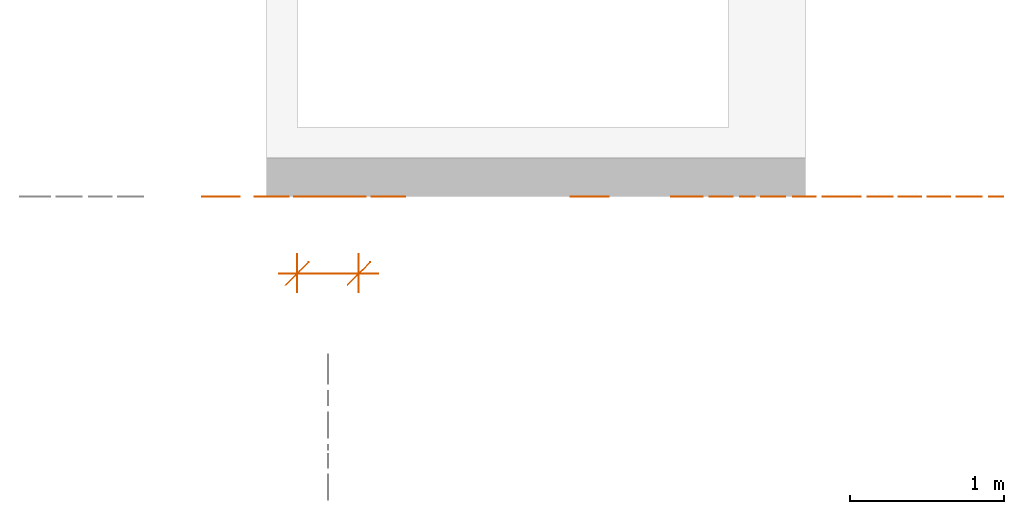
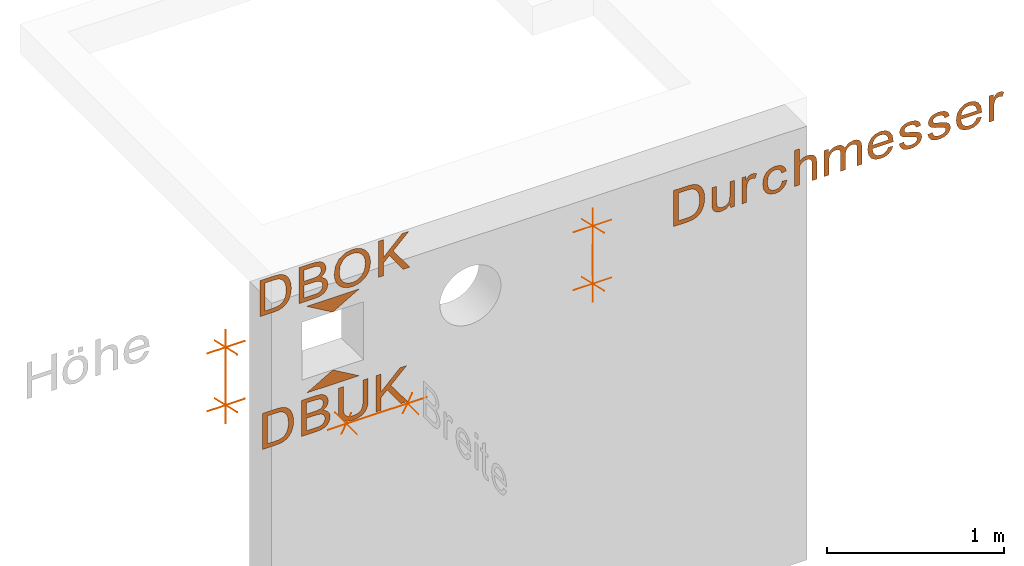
# One storey, part 2 of 3: 6 proxies, 6 elements without a shape of their own.
"""IFC4 building model written with IfcOpenShell, lengths in metres."""

import ifcopenshell
import ifcopenshell.guid

model = None  # the IFC model being written
_history = None  # IfcOwnerHistory: only IFC2X3 demands one
_inside = {}  # id of a spatial element -> (the spatial element, [elements in it])
_under = {}  # id of a project, library or spatial element -> (it, [spatial elements below it])
_declared = {}  # id of a project -> (the project, [libraries it declares])
_typed = {}  # id of a type object -> (the type object, [elements of that type])
_made_of = {}  # id of a material, layer set ... -> (it, [elements and type objects made of it])


def new_model(schema):
    """Start an empty IFC model of exactly this schema.

    Asked for "IFC4X3", IfcOpenShell would pick the latest addendum, in which some entities
    have other attributes; the version numbers below select the first issue.
    IFC2X3 requires an IfcOwnerHistory on every rooted entity: one is made here for all.
    """
    global model, _history
    if schema == "IFC4X3":
        model = ifcopenshell.file(schema_version=(4, 3, 0, 0))
    else:
        model = ifcopenshell.file(schema=schema)
    _inside.clear()
    _under.clear()
    _declared.clear()
    _typed.clear()
    _made_of.clear()
    _history = None
    if model.schema == "IFC2X3":
        org = make("IfcOrganization", Name="unknown")
        user = make(
            "IfcPersonAndOrganization",
            ThePerson=make("IfcPerson", FamilyName="unknown"),
            TheOrganization=org,
        )
        app = make(
            "IfcApplication",
            ApplicationDeveloper=org,
            Version="unknown",
            ApplicationFullName="unknown",
            ApplicationIdentifier="unknown",
        )
        _history = make(
            "IfcOwnerHistory",
            OwningUser=user,
            OwningApplication=app,
            ChangeAction="ADDED",
            CreationDate=0,
        )
    return model


def make(cls, **values):
    """One entity of the class cls with the attributes given. An attribute that is None is left unset."""
    return model.create_entity(
        cls, **{name: value for name, value in values.items() if value is not None}
    )


def entity(cls, *values):
    """Any entity or typed value of the class cls, its attributes in the order of the schema. None: left unset."""
    e = model.create_entity(cls)
    for i, value in enumerate(values):
        if value is not None:
            e[i] = value
    return e


def rooted(cls, **values):
    """An entity with a GlobalId (a new one), such as an element, a storey or a relation."""
    return make(cls, GlobalId=ifcopenshell.guid.new(), OwnerHistory=_history, **values)


def si_unit(unit_type, name, prefix=None):
    """IfcSIUnit, for example si_unit("LENGTHUNIT", "METRE", prefix="MILLI")."""
    return make("IfcSIUnit", UnitType=unit_type, Prefix=prefix, Name=name)


def converted_unit(unit_type, name, factor, base, dimensions=None, offset=None):
    """IfcConversionBasedUnit, such as the inch: factor (a typed value) times the base unit."""
    return make(
        "IfcConversionBasedUnit"
        if offset is None
        else "IfcConversionBasedUnitWithOffset",
        ConversionOffset=offset,
        Dimensions=None
        if dimensions is None
        else entity("IfcDimensionalExponents", *dimensions),
        UnitType=unit_type,
        Name=name,
        ConversionFactor=make(
            "IfcMeasureWithUnit", ValueComponent=factor, UnitComponent=base
        ),
    )


def derived_unit(unit_type, elements):
    """IfcDerivedUnit: a product of units, each with its exponent."""
    return make(
        "IfcDerivedUnit",
        Elements=[
            make("IfcDerivedUnitElement", Unit=unit, Exponent=power)
            for unit, power in elements
        ],
        UnitType=unit_type,
    )


def assignment(units):
    """IfcUnitAssignment: the units of a project."""
    return None if units is None else make("IfcUnitAssignment", Units=units)


def point(xyz):
    """IfcCartesianPoint."""
    return None if xyz is None else make("IfcCartesianPoint", Coordinates=xyz)


def direction(xyz):
    """IfcDirection."""
    return None if xyz is None else make("IfcDirection", DirectionRatios=xyz)


def frame(location, z_axis=None, x_axis=None):
    """IfcAxis2Placement3D, a coordinate frame: its origin and axes. An axis left out is left unset."""
    return make(
        "IfcAxis2Placement3D",
        Location=point(location),
        Axis=direction(z_axis),
        RefDirection=direction(x_axis),
    )


def origin():
    """The frame at (0, 0, 0) with its axes left unset."""
    return frame((0.0, 0.0, 0.0))


def origin_with_axes():
    """The frame at (0, 0, 0) with the z axis (0, 0, 1) and the x axis (1, 0, 0) written out."""
    return frame((0.0, 0.0, 0.0), z_axis=(0.0, 0.0, 1.0), x_axis=(1.0, 0.0, 0.0))


def place(relative_to, where):
    """IfcLocalPlacement: puts the frame where relative to a parent placement (None: the world)."""
    return make(
        "IfcLocalPlacement", PlacementRelTo=relative_to, RelativePlacement=where
    )


def context(
    kind, dimensions, precision=None, world=None, true_north=None, identifier=None
):
    """IfcGeometricRepresentationContext, for example the 3D "Model" context."""
    return make(
        "IfcGeometricRepresentationContext",
        ContextIdentifier=identifier,
        ContextType=kind,
        CoordinateSpaceDimension=dimensions,
        Precision=precision,
        WorldCoordinateSystem=world,
        TrueNorth=true_north,
    )


def subcontext(parent, identifier, kind, view, scale=None):
    """IfcGeometricRepresentationSubContext, for example "Body" below "Model"."""
    return make(
        "IfcGeometricRepresentationSubContext",
        ContextIdentifier=identifier,
        ContextType=kind,
        ParentContext=parent,
        TargetScale=scale,
        TargetView=view,
    )


def project(units=None, contexts=None):
    """IfcProject with its units and contexts."""
    return rooted(
        "IfcProject",
        Name="project",
        RepresentationContexts=contexts,
        UnitsInContext=assignment(units),
    )


def spatial(cls, under=None, at=None, **own):
    """A site, building, storey or space (cls), placed at a placement, below another one or the project."""
    s = rooted(cls, ObjectPlacement=at, **own)
    if under is not None:
        _under.setdefault(under.id(), (under, []))[1].append(s)
    return s


def faces_of(points, faces, orient=None, outer=None):
    """IfcFace entities. A face is a list of loops; a loop is a list of indices into points, from 0.

    orient and outer hold one flag for each loop. By default every Orientation is true, the
    first loop of a face is its IfcFaceOuterBound and the others are IfcFaceBound.
    """
    made = []
    for i, loops in enumerate(faces):
        bounds = []
        for j, loop in enumerate(loops):
            is_outer = j == 0 if outer is None else outer[i][j]
            bounds.append(
                make(
                    "IfcFaceOuterBound" if is_outer else "IfcFaceBound",
                    Bound=make("IfcPolyLoop", Polygon=[points[k] for k in loop]),
                    Orientation=True if orient is None else orient[i][j],
                )
            )
        made.append(make("IfcFace", Bounds=bounds))
    return made


def open_shell(faces, orient=None, outer=None):
    """The faces of one IfcOpenShell. surface_model builds it on its shared points."""
    return ("IfcOpenShell", faces, orient, outer)


def surface_model(cls, points, shells):
    """IfcFaceBasedSurfaceModel or IfcShellBasedSurfaceModel (cls): surfaces that need not close."""
    shared = [point(p) for p in points]
    made = [make(c, CfsFaces=faces_of(shared, fs, o, b)) for c, fs, o, b in shells]
    if cls == "IfcFaceBasedSurfaceModel":
        return make(cls, FbsmFaces=made)
    return make(cls, SbsmBoundary=made)


def shape(context_of_items, identifier, shape_type, items):
    """IfcShapeRepresentation: the items that make up one representation, for example the "Body"."""
    return make(
        "IfcShapeRepresentation",
        ContextOfItems=context_of_items,
        RepresentationIdentifier=identifier,
        RepresentationType=shape_type,
        Items=items,
    )


def source(mapping_origin, context_of_items, identifier, shape_type, items):
    """IfcRepresentationMap: a shape defined once, which mapped items show again and again."""
    return make(
        "IfcRepresentationMap",
        MappingOrigin=mapping_origin,
        MappedRepresentation=shape(context_of_items, identifier, shape_type, items),
    )


def transform(
    local_origin,
    x_axis=None,
    y_axis=None,
    z_axis=None,
    scale=None,
    scale2=None,
    scale3=None,
    uniform=True,
):
    """IfcCartesianTransformationOperator3D, or its non-uniform kind. x_axis, y_axis, z_axis: its Axis1, 2, 3."""
    if uniform:
        return make(
            "IfcCartesianTransformationOperator3D",
            Axis1=direction(x_axis),
            Axis2=direction(y_axis),
            LocalOrigin=point(local_origin),
            Scale=scale,
            Axis3=direction(z_axis),
        )
    return make(
        "IfcCartesianTransformationOperator3DnonUniform",
        Axis1=direction(x_axis),
        Axis2=direction(y_axis),
        LocalOrigin=point(local_origin),
        Scale=scale,
        Axis3=direction(z_axis),
        Scale2=scale2,
        Scale3=scale3,
    )


def mapped(mapping_source, mapping_target):
    """IfcMappedItem: shows the shape of a source again, moved by a transform."""
    return make(
        "IfcMappedItem", MappingSource=mapping_source, MappingTarget=mapping_target
    )


def made_of(thing, what):
    """Note that an element or type object is made of a material, layer set ...; save() writes the relation."""
    if what is not None:
        _made_of.setdefault(what.id(), (what, []))[1].append(thing)
    return thing


def element(
    cls,
    number,
    at=None,
    inside=None,
    cuts=None,
    type_object=None,
    material=None,
    context=None,
    identifier="Body",
    shape_type=None,
    held_by="IfcProductDefinitionShape",
    body=None,
    shapes=None,
    **own,
):
    """One element of the class cls, such as IfcWall. Its Tag is "e" and its number.

    at: its placement. inside: the storey or other place that contains it. cuts: it is an
    opening in that element (IfcRelVoidsElement). A single representation is given by context,
    identifier, shape_type and body (its items); several are given by shapes. held_by: the class
    of the entity that holds the representations. save() writes the other relations.
    """
    e = rooted(cls, Tag="e%d" % number, ObjectPlacement=at, **own)
    if body is not None:
        shapes = [shape(context, identifier, shape_type, body)]
    if shapes is not None:
        e.Representation = make(held_by, Representations=shapes)
    if inside is not None:
        _inside.setdefault(inside.id(), (inside, []))[1].append(e)
    if cuts is not None:
        rooted(
            "IfcRelVoidsElement", RelatingBuildingElement=cuts, RelatedOpeningElement=e
        )
    if type_object is not None:
        _typed.setdefault(type_object.id(), (type_object, []))[1].append(e)
    return made_of(e, material)


def aggregate(whole, parts):
    """IfcRelAggregates: a whole, such as a stair, and the parts it consists of."""
    return rooted("IfcRelAggregates", RelatingObject=whole, RelatedObjects=parts)


def save(model, path):
    """Write the relations noted so far, then the file.

    IfcRelAggregates (storeys below a building ...), IfcRelContainedInSpatialStructure (elements
    in a storey), IfcRelDefinesByType, IfcRelAssociatesMaterial and IfcRelDeclares: one each for
    every whole, place, type object, material and project.
    """
    for whole, parts in _under.values():
        aggregate(whole, parts)
    for where, things in _inside.values():
        rooted(
            "IfcRelContainedInSpatialStructure",
            RelatedElements=things,
            RelatingStructure=where,
        )
    for kind, things in _typed.values():
        rooted("IfcRelDefinesByType", RelatedObjects=things, RelatingType=kind)
    for what, things in _made_of.values():
        rooted("IfcRelAssociatesMaterial", RelatedObjects=things, RelatingMaterial=what)
    for by, libraries in _declared.values():
        rooted("IfcRelDeclares", RelatingContext=by, RelatedDefinitions=libraries)
    model.write(path)


model = new_model("IFC4")

# Units and contexts
model_context = context("Model", 3, precision=1e-05, world=origin())
body_context = subcontext(model_context, "Body", "Model", "MODEL_VIEW")
ifc_project = project(units=[si_unit("LENGTHUNIT", "METRE"), si_unit("AREAUNIT", "SQUARE_METRE"), si_unit("VOLUMEUNIT", "CUBIC_METRE"), si_unit("MASSUNIT", "GRAM", prefix="KILO"), converted_unit("PLANEANGLEUNIT", "DEGREE", entity("IfcPlaneAngleMeasure", 0.0174532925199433), si_unit("PLANEANGLEUNIT", "RADIAN"), dimensions=[0, 0, 0, 0, 0, 0, 0]), derived_unit("THERMALTRANSMITTANCEUNIT", [(si_unit("POWERUNIT", "WATT"), 1), (si_unit("THERMODYNAMICTEMPERATUREUNIT", "KELVIN"), -1), (si_unit("LENGTHUNIT", "METRE"), -2)]), derived_unit("VOLUMETRICFLOWRATEUNIT", [(si_unit("LENGTHUNIT", "METRE"), 3), (converted_unit("TIMEUNIT", "hour", entity("IfcTimeMeasure", 3600.0), si_unit("TIMEUNIT", "SECOND"), dimensions=[0, 0, 1, 0, 0, 0, 0]), -1), (si_unit("LENGTHUNIT", "METRE"), -1)])], contexts=[model_context])

# Site, building, storey
site_placement = place(None, origin())
site = spatial("IfcSite", under=ifc_project, at=site_placement, Name="Liegenschaft", CompositionType="ELEMENT")
building_placement = place(site_placement, origin())
building = spatial("IfcBuilding", under=site, at=building_placement, Name="Gebäude", CompositionType="ELEMENT")
storey_placement = place(building_placement, origin())
storey = spatial("IfcBuildingStorey", under=building, at=storey_placement, Name="Geschoss 01", CompositionType="ELEMENT", Elevation=0.0)

# Assembly, proxy
assembly_1_placement = place(storey_placement, origin())
assembly_1 = element("IfcElementAssembly", 1, at=assembly_1_placement, inside=storey, Name="SpatialDim_Group", PredefinedType="NOTDEFINED")
shared_shape_1 = source(origin_with_axes(), body_context, "Axis", "Curve3D", [
    entity("IfcPolyline", [entity("IfcCartesianPoint", [0.05, 0.05, 0.0]), entity("IfcCartesianPoint", [0.2, 0.2, 0.0])]),
    entity("IfcPolyline", [entity("IfcCartesianPoint", [0.125, 0.0, 0.0]), entity("IfcCartesianPoint", [0.125, 0.25, 0.0])]),
    entity("IfcPolyline", [entity("IfcCartesianPoint", [0.45, 0.05, 0.0]), entity("IfcCartesianPoint", [0.6, 0.2, 0.0])]),
    entity("IfcPolyline", [entity("IfcCartesianPoint", [0.525, 0.0, 0.0]), entity("IfcCartesianPoint", [0.525, 0.25, 0.0])]),
    entity("IfcPolyline", [entity("IfcCartesianPoint", [0.0, 0.125, 0.0]), entity("IfcCartesianPoint", [0.65, 0.125, 0.0])]),
])
proxy_1_placement = place(assembly_1_placement, frame((245.755, 0.0, 2.925), z_axis=(1.22464679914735e-16, -1.0, 1.49975978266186e-32), x_axis=(1.22464679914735e-16, 0.0, -1.0)))
proxy_1 = element("IfcBuildingElementProxy", 2, at=proxy_1_placement, Name="macro", context=body_context, shape_type="MappedRepresentation", body=[
    mapped(shared_shape_1, transform((0.0, 0.0, 0.0), x_axis=(1.0, 0.0, 0.0), y_axis=(0.0, 1.0, 0.0), z_axis=(0.0, 0.0, 1.0), scale=1.0)),
])
aggregate(assembly_1, [proxy_1])

assembly_2_placement = place(storey_placement, origin())
assembly_2 = element("IfcElementAssembly", 3, at=assembly_2_placement, inside=storey, Name="SpatialDim_Group", PredefinedType="NOTDEFINED")
shared_shape_2 = source(origin_with_axes(), body_context, "Axis", "Curve3D", [
    entity("IfcPolyline", [entity("IfcCartesianPoint", [0.05, 0.05, 0.0]), entity("IfcCartesianPoint", [0.2, 0.2, 0.0])]),
    entity("IfcPolyline", [entity("IfcCartesianPoint", [0.125, 0.25, 0.0]), entity("IfcCartesianPoint", [0.125, 0.0, 0.0])]),
    entity("IfcPolyline", [entity("IfcCartesianPoint", [0.45, 0.05, 0.0]), entity("IfcCartesianPoint", [0.6, 0.2, 0.0])]),
    entity("IfcPolyline", [entity("IfcCartesianPoint", [0.525, 0.25, 0.0]), entity("IfcCartesianPoint", [0.525, 0.0, 0.0])]),
    entity("IfcPolyline", [entity("IfcCartesianPoint", [0.0, 0.125, 0.0]), entity("IfcCartesianPoint", [0.65, 0.125, 0.0])]),
])
proxy_2_placement = place(assembly_2_placement, frame((248.155, 0.0, 2.925), z_axis=(1.22464679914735e-16, -1.0, 1.49975978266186e-32), x_axis=(1.22464679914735e-16, 0.0, -1.0)))
proxy_2 = element("IfcBuildingElementProxy", 4, at=proxy_2_placement, Name="macro", context=body_context, shape_type="MappedRepresentation", body=[
    mapped(shared_shape_2, transform((0.0, 0.0, 0.0), x_axis=(1.0, 0.0, 0.0), y_axis=(0.0, 1.0, 0.0), z_axis=(0.0, 0.0, 1.0), scale=1.0)),
])
aggregate(assembly_2, [proxy_2])

assembly_3_placement = place(storey_placement, origin())
assembly_3 = element("IfcElementAssembly", 5, at=assembly_3_placement, inside=storey, Name="SpatialDim_Group", PredefinedType="NOTDEFINED")
shared_shape_3 = source(origin_with_axes(), body_context, "Axis", "Curve3D", [
    entity("IfcPolyline", [entity("IfcCartesianPoint", [0.05, 0.05, 0.0]), entity("IfcCartesianPoint", [0.2, 0.2, 0.0])]),
    entity("IfcPolyline", [entity("IfcCartesianPoint", [0.125, 0.0, 0.0]), entity("IfcCartesianPoint", [0.125, 0.25, 0.0])]),
    entity("IfcPolyline", [entity("IfcCartesianPoint", [0.45, 0.05, 0.0]), entity("IfcCartesianPoint", [0.6, 0.2, 0.0])]),
    entity("IfcPolyline", [entity("IfcCartesianPoint", [0.525, 0.0, 0.0]), entity("IfcCartesianPoint", [0.525, 0.25, 0.0])]),
    entity("IfcPolyline", [entity("IfcCartesianPoint", [0.0, 0.125, 0.0]), entity("IfcCartesianPoint", [0.65, 0.125, 0.0])]),
])
proxy_3_placement = place(assembly_3_placement, frame((246.255, -0.625, 2.4)))
proxy_3 = element("IfcBuildingElementProxy", 6, at=proxy_3_placement, Name="macro", context=body_context, shape_type="MappedRepresentation", body=[
    mapped(shared_shape_3, transform((0.0, 0.0, 0.0), x_axis=(1.0, 0.0, 0.0), y_axis=(0.0, 1.0, 0.0), z_axis=(0.0, 0.0, 1.0), scale=1.0)),
])
aggregate(assembly_3, [proxy_3])

assembly_4_placement = place(storey_placement, origin())
assembly_4 = element("IfcElementAssembly", 7, at=assembly_4_placement, inside=storey, Name="SpatialDim_Group", PredefinedType="NOTDEFINED")
shared_shape_4 = source(origin_with_axes(), body_context, "Body", "SurfaceModel", [
    surface_model("IfcShellBasedSurfaceModel", [(0.00999999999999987, 2.162, 0.0), (0.00999999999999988, 2.073, 0.0), (0.0112499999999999, 2.051125, 0.0), (0.0139999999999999, 2.033, 0.0), (0.0201249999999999, 2.0165, 0.0), (0.0269999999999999, 2.003, 0.0), (0.0368749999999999, 1.99125, 0.0), (0.0489999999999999, 1.981, 0.0), (0.0659999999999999, 1.971, 0.0), (0.0859999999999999, 1.964, 0.0), (0.109875, 1.958625, 0.0), (0.136, 1.957, 0.0), (0.16825, 1.95975, 0.0), (0.196, 1.967, 0.0), (0.220125, 1.978875, 0.0), (0.239, 1.996, 0.0), (0.249375, 2.0125, 0.0), (0.256, 2.032, 0.0), (0.259125, 2.0515, 0.0), (0.26, 2.077, 0.0), (0.26, 2.162, 0.0), (0.0399999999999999, 2.05475, 0.0), (0.0389999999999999, 2.076, 0.0), (0.0389999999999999, 2.129, 0.0), (0.231, 2.129, 0.0), (0.231, 2.077, 0.0), (0.229625, 2.0515, 0.0), (0.226, 2.035, 0.0), (0.214875, 2.017625, 0.0), (0.197, 2.004, 0.0), (0.1715, 1.994125, 0.0), (0.137, 1.991, 0.0), (0.109875, 1.9925, 0.0), (0.0879999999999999, 1.997, 0.0), (0.0698749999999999, 2.005375, 0.0), (0.0569999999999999, 2.016, 0.0), (0.0489999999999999, 2.025875, 0.0), (0.0439999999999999, 2.038, 0.0)], [open_shell([[[0, 1, 2, 3, 4, 5, 6, 7, 8, 9, 10, 11, 12, 13, 14, 15, 16, 17, 18, 19, 20], [21, 22, 23, 24, 25, 26, 27, 28, 29, 30, 31, 32, 33, 34, 35, 36, 37]]], orient=[[False, False]])]),
    surface_model("IfcShellBasedSurfaceModel", [(0.00999999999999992, 1.79, 0.0), (0.00999999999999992, 1.762, 0.0), (0.191, 1.762, 0.0), (0.191, 1.793, 0.0), (0.0939999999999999, 1.793, 0.0), (0.0729999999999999, 1.794375, 0.0), (0.0579999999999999, 1.798, 0.0), (0.0469999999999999, 1.805, 0.0), (0.0389999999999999, 1.815, 0.0), (0.0336249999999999, 1.827625, 0.0), (0.0319999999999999, 1.841, 0.0), (0.0339999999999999, 1.8545, 0.0), (0.0389999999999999, 1.865, 0.0), (0.0473749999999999, 1.8725, 0.0), (0.0579999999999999, 1.877, 0.0), (0.0702499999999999, 1.87875, 0.0), (0.0899999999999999, 1.879, 0.0), (0.191, 1.879, 0.0), (0.191, 1.91, 0.0), (0.0789999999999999, 1.91, 0.0), (0.0614999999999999, 1.909375, 0.0), (0.0499999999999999, 1.908, 0.0), (0.0378749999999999, 1.90425, 0.0), (0.0279999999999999, 1.899, 0.0), (0.0188749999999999, 1.89, 0.0), (0.0119999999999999, 1.878, 0.0), (0.00749999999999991, 1.863, 0.0), (0.00599999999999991, 1.848, 0.0), (0.0134999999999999, 1.814875, 0.0), (0.0359999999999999, 1.79, 0.0)], [open_shell([[[0, 1, 2, 3, 4, 5, 6, 7, 8, 9, 10, 11, 12, 13, 14, 15, 16, 17, 18, 19, 20, 21, 22, 23, 24, 25, 26, 27, 28, 29]]], orient=[[False]])]),
    surface_model("IfcShellBasedSurfaceModel", [(0.00999999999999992, 1.714, 0.0), (0.00999999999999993, 1.683, 0.0), (0.105, 1.683, 0.0), (0.123625, 1.681625, 0.0), (0.14, 1.678, 0.0), (0.15, 1.673625, 0.0), (0.157, 1.667, 0.0), (0.1615, 1.658, 0.0), (0.163, 1.649, 0.0), (0.1615, 1.63775, 0.0), (0.157, 1.628, 0.0), (0.185, 1.617, 0.0), (0.192625, 1.632875, 0.0), (0.195, 1.648, 0.0), (0.1935, 1.65875, 0.0), (0.189, 1.668, 0.0), (0.179375, 1.6775, 0.0), (0.163, 1.687, 0.0), (0.191, 1.687, 0.0), (0.191, 1.714, 0.0)], [open_shell([[[0, 1, 2, 3, 4, 5, 6, 7, 8, 9, 10, 11, 12, 13, 14, 15, 16, 17, 18, 19]]], orient=[[False]])]),
    surface_model("IfcShellBasedSurfaceModel", [(0.0759999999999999, 1.45, 0.0), (0.055625, 1.45575, 0.0), (0.042, 1.466, 0.0), (0.0334999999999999, 1.4795, 0.0), (0.0309999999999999, 1.496, 0.0), (0.0353749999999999, 1.517125, 0.0), (0.0479999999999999, 1.533, 0.0), (0.069625, 1.54375, 0.0), (0.101, 1.547, 0.0), (0.13225, 1.543375, 0.0), (0.153, 1.533, 0.0), (0.166, 1.515875, 0.0), (0.17, 1.495, 0.0), (0.16775, 1.480875, 0.0), (0.161, 1.469, 0.0), (0.148875, 1.45925, 0.0), (0.133, 1.454, 0.0), (0.137, 1.423, 0.0), (0.161875, 1.432, 0.0), (0.18, 1.447, 0.0), (0.19125, 1.46875, 0.0), (0.195, 1.495, 0.0), (0.192125, 1.518125, 0.0), (0.184, 1.539, 0.0), (0.16975, 1.5565, 0.0), (0.151, 1.568, 0.0), (0.127, 1.575625, 0.0), (0.0999999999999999, 1.578, 0.0), (0.0597499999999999, 1.572125, 0.0), (0.0299999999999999, 1.555, 0.0), (0.0119999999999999, 1.528, 0.0), (0.00599999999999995, 1.495, 0.0), (0.0105, 1.467375, 0.0), (0.024, 1.445, 0.0), (0.0449999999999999, 1.427875, 0.0), (0.0719999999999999, 1.419, 0.0)], [open_shell([[[0, 1, 2, 3, 4, 5, 6, 7, 8, 9, 10, 11, 12, 13, 14, 15, 16, 17, 18, 19, 20, 21, 22, 23, 24, 25, 26, 27, 28, 29, 30, 31, 32, 33, 34, 35]]], orient=[[False]])]),
    surface_model("IfcShellBasedSurfaceModel", [(0.00999999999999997, 1.37, 0.0), (0.00999999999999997, 1.339, 0.0), (0.109, 1.339, 0.0), (0.128625, 1.337625, 0.0), (0.143, 1.334, 0.0), (0.154, 1.327, 0.0), (0.162, 1.317, 0.0), (0.167375, 1.304875, 0.0), (0.169, 1.292, 0.0), (0.16625, 1.27625, 0.0), (0.159, 1.265, 0.0), (0.144625, 1.257375, 0.0), (0.125, 1.255, 0.0), (0.00999999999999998, 1.255, 0.0), (0.00999999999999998, 1.224, 0.0), (0.125, 1.224, 0.0), (0.148375, 1.2255, 0.0), (0.165, 1.23, 0.0), (0.177875, 1.239, 0.0), (0.187, 1.251, 0.0), (0.19325, 1.267375, 0.0), (0.195, 1.286, 0.0), (0.189, 1.3155, 0.0), (0.171, 1.339, 0.0), (0.26, 1.339, 0.0), (0.26, 1.37, 0.0)], [open_shell([[[0, 1, 2, 3, 4, 5, 6, 7, 8, 9, 10, 11, 12, 13, 14, 15, 16, 17, 18, 19, 20, 21, 22, 23, 24, 25]]], orient=[[False]])]),
    surface_model("IfcShellBasedSurfaceModel", [(0.00999999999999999, 1.176, 0.0), (0.00999999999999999, 1.145, 0.0), (0.104, 1.145, 0.0), (0.1255, 1.143625, 0.0), (0.141, 1.14, 0.0), (0.152875, 1.133125, 0.0), (0.161, 1.124, 0.0), (0.166375, 1.112, 0.0), (0.168, 1.1, 0.0), (0.16525, 1.085, 0.0), (0.158, 1.076, 0.0), (0.145125, 1.06975, 0.0), (0.127, 1.068, 0.0), (0.01, 1.068, 0.0), (0.01, 1.037, 0.0), (0.115, 1.037, 0.0), (0.139125, 1.0335, 0.0), (0.155, 1.024, 0.0), (0.164875, 1.009875, 0.0), (0.168, 0.992, 0.0), (0.166625, 0.98225, 0.0), (0.163, 0.974, 0.0), (0.156875, 0.967, 0.0), (0.15, 0.963, 0.0), (0.13925, 0.96075, 0.0), (0.124, 0.96, 0.0), (0.01, 0.96, 0.0), (0.01, 0.929, 0.0), (0.134, 0.929, 0.0), (0.161125, 0.93275, 0.0), (0.18, 0.944, 0.0), (0.19125, 0.9615, 0.0), (0.195, 0.985, 0.0), (0.186875, 1.01725, 0.0), (0.163, 1.042, 0.0), (0.1765, 1.0495, 0.0), (0.187, 1.06, 0.0), (0.19325, 1.075, 0.0), (0.195, 1.093, 0.0), (0.192875, 1.110125, 0.0), (0.187, 1.125, 0.0), (0.177125, 1.138, 0.0), (0.165, 1.148, 0.0), (0.191, 1.148, 0.0), (0.191, 1.176, 0.0)], [open_shell([[[0, 1, 2, 3, 4, 5, 6, 7, 8, 9, 10, 11, 12, 13, 14, 15, 16, 17, 18, 19, 20, 21, 22, 23, 24, 25, 26, 27, 28, 29, 30, 31, 32, 33, 34, 35, 36, 37, 38, 39, 40, 41, 42, 43, 44]]], orient=[[False]])]),
    surface_model("IfcShellBasedSurfaceModel", [(0.068, 0.756, 0.0), (0.051375, 0.764875, 0.0), (0.04, 0.776, 0.0), (0.03325, 0.789375, 0.0), (0.031, 0.805, 0.0), (0.03525, 0.82675, 0.0), (0.047, 0.844, 0.0), (0.066625, 0.855875, 0.0), (0.093, 0.861, 0.0), (0.093, 0.724, 0.0), (0.09775, 0.724, 0.0), (0.101, 0.724, 0.0), (0.14075, 0.729875, 0.0), (0.17, 0.747, 0.0), (0.188875, 0.774, 0.0), (0.195, 0.807, 0.0), (0.1885, 0.841625, 0.0), (0.17, 0.868, 0.0), (0.139375, 0.886, 0.0), (0.099, 0.892, 0.0), (0.05925, 0.886125, 0.0), (0.03, 0.869, 0.0), (0.012, 0.84075, 0.0), (0.00600000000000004, 0.805, 0.0), (0.00975000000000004, 0.775625, 0.0), (0.021, 0.753, 0.0), (0.0395, 0.735625, 0.0), (0.064, 0.725, 0.0), (0.137625, 0.75975, 0.0), (0.118, 0.756, 0.0), (0.118, 0.86, 0.0), (0.139625, 0.854625, 0.0), (0.156, 0.844, 0.0), (0.16675, 0.827, 0.0), (0.17, 0.807, 0.0), (0.1655, 0.78525, 0.0), (0.152, 0.768, 0.0)], [open_shell([[[0, 1, 2, 3, 4, 5, 6, 7, 8, 9, 10, 11, 12, 13, 14, 15, 16, 17, 18, 19, 20, 21, 22, 23, 24, 25, 26, 27], [28, 29, 30, 31, 32, 33, 34, 35, 36]]], orient=[[False, False]])]),
    surface_model("IfcShellBasedSurfaceModel", [(0.065, 0.687, 0.0), (0.03925, 0.678, 0.0), (0.021, 0.663, 0.0), (0.00975000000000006, 0.640625, 0.0), (0.00600000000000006, 0.61, 0.0), (0.00800000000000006, 0.589875, 0.0), (0.0130000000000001, 0.572, 0.0), (0.0227500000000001, 0.55675, 0.0), (0.0340000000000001, 0.546, 0.0), (0.0485000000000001, 0.53925, 0.0), (0.0630000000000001, 0.537, 0.0), (0.0778750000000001, 0.539125, 0.0), (0.0890000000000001, 0.545, 0.0), (0.0988750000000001, 0.553875, 0.0), (0.105, 0.565, 0.0), (0.11175, 0.583, 0.0), (0.12, 0.61, 0.0), (0.125125, 0.628, 0.0), (0.128, 0.637, 0.0), (0.131625, 0.644, 0.0), (0.136, 0.648, 0.0), (0.1415, 0.651125, 0.0), (0.147, 0.652, 0.0), (0.15575, 0.64975, 0.0), (0.163, 0.643, 0.0), (0.168375, 0.631125, 0.0), (0.17, 0.614, 0.0), (0.167875, 0.59825, 0.0), (0.162, 0.587, 0.0), (0.152125, 0.57875, 0.0), (0.14, 0.575, 0.0), (0.144, 0.544, 0.0), (0.16025, 0.548375, 0.0), (0.172, 0.555, 0.0), (0.182, 0.564625, 0.0), (0.189, 0.578, 0.0), (0.1935, 0.59625, 0.0), (0.195, 0.616, 0.0), (0.19375, 0.63025, 0.0), (0.191, 0.643, 0.0), (0.18725, 0.654, 0.0), (0.182, 0.662, 0.0), (0.174625, 0.671, 0.0), (0.165, 0.677, 0.0), (0.154375, 0.6815, 0.0), (0.143, 0.683, 0.0), (0.13025, 0.681, 0.0), (0.119, 0.676, 0.0), (0.109, 0.667125, 0.0), (0.102, 0.656, 0.0), (0.0945, 0.637, 0.0), (0.0870000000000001, 0.609, 0.0), (0.0803750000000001, 0.589, 0.0), (0.0760000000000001, 0.578, 0.0), (0.0687500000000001, 0.570375, 0.0), (0.0600000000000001, 0.568, 0.0), (0.0488750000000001, 0.57075, 0.0), (0.0400000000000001, 0.578, 0.0), (0.0332500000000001, 0.590875, 0.0), (0.0310000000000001, 0.609, 0.0), (0.0337500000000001, 0.62775, 0.0), (0.0410000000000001, 0.642, 0.0), (0.0531250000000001, 0.65125, 0.0), (0.069, 0.656, 0.0)], [open_shell([[[0, 1, 2, 3, 4, 5, 6, 7, 8, 9, 10, 11, 12, 13, 14, 15, 16, 17, 18, 19, 20, 21, 22, 23, 24, 25, 26, 27, 28, 29, 30, 31, 32, 33, 34, 35, 36, 37, 38, 39, 40, 41, 42, 43, 44, 45, 46, 47, 48, 49, 50, 51, 52, 53, 54, 55, 56, 57, 58, 59, 60, 61, 62, 63]]], orient=[[False]])]),
    surface_model("IfcShellBasedSurfaceModel", [(0.0650000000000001, 0.5, 0.0), (0.0392500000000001, 0.491, 0.0), (0.0210000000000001, 0.476, 0.0), (0.00975000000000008, 0.453625, 0.0), (0.00600000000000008, 0.423, 0.0), (0.00800000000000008, 0.402875, 0.0), (0.0130000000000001, 0.385, 0.0), (0.0227500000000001, 0.36975, 0.0), (0.0340000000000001, 0.359, 0.0), (0.0485000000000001, 0.35225, 0.0), (0.0630000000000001, 0.35, 0.0), (0.0778750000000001, 0.352125, 0.0), (0.0890000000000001, 0.358, 0.0), (0.0988750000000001, 0.366875, 0.0), (0.105, 0.378, 0.0), (0.11175, 0.396, 0.0), (0.12, 0.423, 0.0), (0.125125, 0.441, 0.0), (0.128, 0.45, 0.0), (0.131625, 0.457, 0.0), (0.136, 0.461, 0.0), (0.1415, 0.464125, 0.0), (0.147, 0.465, 0.0), (0.15575, 0.46275, 0.0), (0.163, 0.456, 0.0), (0.168375, 0.444125, 0.0), (0.17, 0.427, 0.0), (0.167875, 0.41125, 0.0), (0.162, 0.4, 0.0), (0.152125, 0.39175, 0.0), (0.14, 0.388, 0.0), (0.144, 0.357, 0.0), (0.16025, 0.361375, 0.0), (0.172, 0.368, 0.0), (0.182, 0.377625, 0.0), (0.189, 0.391, 0.0), (0.1935, 0.40925, 0.0), (0.195, 0.429, 0.0), (0.19375, 0.44325, 0.0), (0.191, 0.456, 0.0), (0.18725, 0.467, 0.0), (0.182, 0.475, 0.0), (0.174625, 0.484, 0.0), (0.165, 0.49, 0.0), (0.154375, 0.4945, 0.0), (0.143, 0.496, 0.0), (0.13025, 0.494, 0.0), (0.119, 0.489, 0.0), (0.109, 0.480125, 0.0), (0.102, 0.469, 0.0), (0.0945000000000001, 0.45, 0.0), (0.0870000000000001, 0.422, 0.0), (0.0803750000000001, 0.402, 0.0), (0.0760000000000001, 0.391, 0.0), (0.0687500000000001, 0.383375, 0.0), (0.0600000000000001, 0.381, 0.0), (0.0488750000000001, 0.38375, 0.0), (0.0400000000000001, 0.391, 0.0), (0.0332500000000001, 0.403875, 0.0), (0.0310000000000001, 0.422, 0.0), (0.0337500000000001, 0.44075, 0.0), (0.0410000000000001, 0.455, 0.0), (0.0531250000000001, 0.46425, 0.0), (0.0690000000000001, 0.469, 0.0)], [open_shell([[[0, 1, 2, 3, 4, 5, 6, 7, 8, 9, 10, 11, 12, 13, 14, 15, 16, 17, 18, 19, 20, 21, 22, 23, 24, 25, 26, 27, 28, 29, 30, 31, 32, 33, 34, 35, 36, 37, 38, 39, 40, 41, 42, 43, 44, 45, 46, 47, 48, 49, 50, 51, 52, 53, 54, 55, 56, 57, 58, 59, 60, 61, 62, 63]]], orient=[[False]])]),
    surface_model("IfcShellBasedSurfaceModel", [(0.0680000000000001, 0.177, 0.0), (0.0513750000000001, 0.185875, 0.0), (0.0400000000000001, 0.197, 0.0), (0.0332500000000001, 0.210375, 0.0), (0.0310000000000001, 0.226, 0.0), (0.0352500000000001, 0.24775, 0.0), (0.0470000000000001, 0.265, 0.0), (0.0666250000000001, 0.276875, 0.0), (0.0930000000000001, 0.282, 0.0), (0.0930000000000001, 0.145, 0.0), (0.0977500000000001, 0.145, 0.0), (0.101, 0.145, 0.0), (0.14075, 0.150875, 0.0), (0.17, 0.168, 0.0), (0.188875, 0.195, 0.0), (0.195, 0.228, 0.0), (0.1885, 0.262625, 0.0), (0.17, 0.289, 0.0), (0.139375, 0.307, 0.0), (0.0990000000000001, 0.313, 0.0), (0.0592500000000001, 0.307125, 0.0), (0.0300000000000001, 0.29, 0.0), (0.0120000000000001, 0.26175, 0.0), (0.00600000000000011, 0.226, 0.0), (0.00975000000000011, 0.196625, 0.0), (0.0210000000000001, 0.174, 0.0), (0.0395000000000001, 0.156625, 0.0), (0.0640000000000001, 0.146, 0.0), (0.137625, 0.18075, 0.0), (0.118, 0.177, 0.0), (0.118, 0.281, 0.0), (0.139625, 0.275625, 0.0), (0.156, 0.265, 0.0), (0.16675, 0.248, 0.0), (0.17, 0.228, 0.0), (0.1655, 0.20625, 0.0), (0.152, 0.189, 0.0)], [open_shell([[[0, 1, 2, 3, 4, 5, 6, 7, 8, 9, 10, 11, 12, 13, 14, 15, 16, 17, 18, 19, 20, 21, 22, 23, 24, 25, 26, 27], [28, 29, 30, 31, 32, 33, 34, 35, 36]]], orient=[[False, False]])]),
    surface_model("IfcShellBasedSurfaceModel", [(0.0100000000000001, 0.0970000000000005, 0.0), (0.0100000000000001, 0.0660000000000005, 0.0), (0.105, 0.0660000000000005, 0.0), (0.123625, 0.0646250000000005, 0.0), (0.14, 0.0610000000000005, 0.0), (0.15, 0.0566250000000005, 0.0), (0.157, 0.0500000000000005, 0.0), (0.1615, 0.0410000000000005, 0.0), (0.163, 0.0320000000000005, 0.0), (0.1615, 0.0207500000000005, 0.0), (0.157, 0.0110000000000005, 0.0), (0.185, 0.0, 0.0), (0.192625, 0.0158750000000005, 0.0), (0.195, 0.0310000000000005, 0.0), (0.1935, 0.0417500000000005, 0.0), (0.189, 0.0510000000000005, 0.0), (0.179375, 0.0605000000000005, 0.0), (0.163, 0.0700000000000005, 0.0), (0.191, 0.0700000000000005, 0.0), (0.191, 0.0970000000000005, 0.0)], [open_shell([[[0, 1, 2, 3, 4, 5, 6, 7, 8, 9, 10, 11, 12, 13, 14, 15, 16, 17, 18, 19]]], orient=[[False]])]),
])
proxy_4_placement = place(assembly_4_placement, frame((250.97, 0.0, 2.6), z_axis=(-1.22464679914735e-16, -1.0, 1.49975978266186e-32), x_axis=(1.22464679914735e-16, 0.0, 1.0)))
proxy_4 = element("IfcBuildingElementProxy", 8, at=proxy_4_placement, context=body_context, shape_type="MappedRepresentation", body=[
    mapped(shared_shape_4, transform((0.0, 0.0, 0.0), x_axis=(1.0, 0.0, 0.0), y_axis=(0.0, 1.0, 0.0), z_axis=(0.0, 0.0, 1.0), scale=1.0)),
])
aggregate(assembly_4, [proxy_4])

assembly_5_placement = place(storey_placement, origin())
assembly_5 = element("IfcElementAssembly", 9, at=assembly_5_placement, inside=storey, Name="SpatialDim_Group", PredefinedType="NOTDEFINED")
shared_shape_5 = source(origin_with_axes(), body_context, "Body", "SurfaceModel", [
    surface_model("IfcShellBasedSurfaceModel", [(0.393, 0.4895, 0.0), (0.293, 0.662705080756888, 0.0), (0.293, 0.316294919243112, 0.0)], [open_shell([[[0, 1, 2]]], orient=[[False]])]),
    surface_model("IfcShellBasedSurfaceModel", [(0.00399999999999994, 0.951, 0.0), (0.00399999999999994, 0.862, 0.0), (0.00524999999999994, 0.840125, 0.0), (0.00799999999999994, 0.822, 0.0), (0.0141249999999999, 0.8055, 0.0), (0.0209999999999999, 0.792, 0.0), (0.0308749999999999, 0.78025, 0.0), (0.0429999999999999, 0.77, 0.0), (0.0599999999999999, 0.76, 0.0), (0.0799999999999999, 0.753, 0.0), (0.103875, 0.747625, 0.0), (0.13, 0.746, 0.0), (0.16225, 0.74875, 0.0), (0.19, 0.756, 0.0), (0.214125, 0.767875, 0.0), (0.233, 0.785, 0.0), (0.243375, 0.8015, 0.0), (0.25, 0.821, 0.0), (0.253125, 0.8405, 0.0), (0.254, 0.866, 0.0), (0.254, 0.951, 0.0), (0.0339999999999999, 0.84375, 0.0), (0.0329999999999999, 0.865, 0.0), (0.0329999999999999, 0.918, 0.0), (0.225, 0.918, 0.0), (0.225, 0.866, 0.0), (0.223625, 0.8405, 0.0), (0.22, 0.824, 0.0), (0.208875, 0.806625, 0.0), (0.191, 0.793, 0.0), (0.1655, 0.783125, 0.0), (0.131, 0.78, 0.0), (0.103875, 0.7815, 0.0), (0.0819999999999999, 0.786, 0.0), (0.0638749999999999, 0.794375, 0.0), (0.0509999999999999, 0.805, 0.0), (0.0429999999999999, 0.814875, 0.0), (0.0379999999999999, 0.827, 0.0)], [open_shell([[[0, 1, 2, 3, 4, 5, 6, 7, 8, 9, 10, 11, 12, 13, 14, 15, 16, 17, 18, 19, 20], [21, 22, 23, 24, 25, 26, 27, 28, 29, 30, 31, 32, 33, 34, 35, 36, 37]]], orient=[[False, False]])]),
    surface_model("IfcShellBasedSurfaceModel", [(0.004, 0.695, 0.0), (0.004, 0.6, 0.0), (0.00525, 0.57775, 0.0), (0.008, 0.56, 0.0), (0.01325, 0.545, 0.0), (0.02, 0.533, 0.0), (0.0305, 0.522375, 0.0), (0.044, 0.514, 0.0), (0.059625, 0.508625, 0.0), (0.076, 0.507, 0.0), (0.096375, 0.51, 0.0), (0.113, 0.519, 0.0), (0.127125, 0.534625, 0.0), (0.136, 0.554, 0.0), (0.146375, 0.53875, 0.0), (0.159, 0.528, 0.0), (0.174125, 0.52125, 0.0), (0.19, 0.519, 0.0), (0.20725, 0.52175, 0.0), (0.223, 0.529, 0.0), (0.237125, 0.541, 0.0), (0.246, 0.556, 0.0), (0.25225, 0.576375, 0.0), (0.254, 0.602, 0.0), (0.254, 0.695, 0.0), (0.14875, 0.589875, 0.0), (0.148, 0.608, 0.0), (0.148, 0.662, 0.0), (0.225, 0.662, 0.0), (0.225, 0.612, 0.0), (0.22375, 0.589375, 0.0), (0.221, 0.575, 0.0), (0.216, 0.565, 0.0), (0.208, 0.558, 0.0), (0.19775, 0.5535, 0.0), (0.186, 0.552, 0.0), (0.173875, 0.5535, 0.0), (0.164, 0.558, 0.0), (0.156, 0.566375, 0.0), (0.151, 0.577, 0.0), (0.033125, 0.58675, 0.0), (0.033, 0.6, 0.0), (0.033, 0.662, 0.0), (0.119, 0.662, 0.0), (0.119, 0.605, 0.0), (0.11775, 0.5835, 0.0), (0.115, 0.568, 0.0), (0.109, 0.556875, 0.0), (0.1, 0.548, 0.0), (0.08875, 0.542625, 0.0), (0.076, 0.541, 0.0), (0.06475, 0.542375, 0.0), (0.055, 0.546, 0.0), (0.046875, 0.552125, 0.0), (0.041, 0.559, 0.0), (0.036375, 0.567375, 0.0), (0.034, 0.578, 0.0)], [open_shell([[[0, 1, 2, 3, 4, 5, 6, 7, 8, 9, 10, 11, 12, 13, 14, 15, 16, 17, 18, 19, 20, 21, 22, 23, 24], [25, 26, 27, 28, 29, 30, 31, 32, 33, 34, 35, 36, 37, 38, 39], [40, 41, 42, 43, 44, 45, 46, 47, 48, 49, 50, 51, 52, 53, 54, 55, 56]]], orient=[[False, False, False]])]),
    surface_model("IfcShellBasedSurfaceModel", [(0.254, 0.292, 0.0), (0.111, 0.292, 0.0), (0.071125, 0.29575, 0.0), (0.047, 0.307, 0.0), (0.034875, 0.32725, 0.0), (0.031, 0.358, 0.0), (0.033125, 0.3775, 0.0), (0.039, 0.394, 0.0), (0.0495, 0.40625, 0.0), (0.063, 0.414, 0.0), (0.0825, 0.4185, 0.0), (0.111, 0.42, 0.0), (0.254, 0.42, 0.0), (0.254, 0.454, 0.0), (0.11, 0.454, 0.0), (0.074, 0.45125, 0.0), (0.047, 0.444, 0.0), (0.0265, 0.4315, 0.0), (0.012, 0.413, 0.0), (0.003, 0.386625, 0.0), (0.0, 0.355, 0.0), (0.003625, 0.32225, 0.0), (0.014, 0.297, 0.0), (0.0305, 0.278125, 0.0), (0.05, 0.266, 0.0), (0.07625, 0.25975, 0.0), (0.11, 0.258, 0.0), (0.254, 0.258, 0.0)], [open_shell([[[0, 1, 2, 3, 4, 5, 6, 7, 8, 9, 10, 11, 12, 13, 14, 15, 16, 17, 18, 19, 20, 21, 22, 23, 24, 25, 26, 27]]], orient=[[False]])]),
    surface_model("IfcShellBasedSurfaceModel", [(0.00400000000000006, 0.207, 0.0), (0.00400000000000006, 0.174, 0.0), (0.0910000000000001, 0.174, 0.0), (0.13, 0.134, 0.0), (0.00400000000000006, 0.044, 0.0), (0.00400000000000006, 0.0, 0.0), (0.153, 0.11, 0.0), (0.254, 0.006, 0.0), (0.254, 0.051, 0.0), (0.132, 0.174, 0.0), (0.254, 0.174, 0.0), (0.254, 0.207, 0.0)], [open_shell([[[0, 1, 2, 3, 4, 5, 6, 7, 8, 9, 10, 11]]], orient=[[False]])]),
])
proxy_5_placement = place(assembly_5_placement, frame((247.0695, -0.001, 2.007), z_axis=(-1.22464679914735e-16, -1.0, 1.49975978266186e-32), x_axis=(1.22464679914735e-16, 0.0, 1.0)))
proxy_5 = element("IfcBuildingElementProxy", 10, at=proxy_5_placement, Name="DBUK", context=body_context, shape_type="MappedRepresentation", body=[
    mapped(shared_shape_5, transform((0.0, 0.0, 0.0), x_axis=(1.0, 0.0, 0.0), y_axis=(0.0, 1.0, 0.0), z_axis=(0.0, 0.0, 1.0), scale=1.0)),
])
aggregate(assembly_5, [proxy_5])

assembly_6_placement = place(storey_placement, origin())
assembly_6 = element("IfcElementAssembly", 11, at=assembly_6_placement, inside=storey, Name="SpatialDim_Group", PredefinedType="NOTDEFINED")
shared_shape_6 = source(origin_with_axes(), body_context, "Body", "SurfaceModel", [
    surface_model("IfcShellBasedSurfaceModel", [(0.0, 0.5045, 0.0), (0.1, 0.677705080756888, 0.0), (0.1, 0.331294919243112, 0.0)], [open_shell([[[0, 1, 2]]], orient=[[False]])]),
    surface_model("IfcShellBasedSurfaceModel", [(0.135, 0.981, 0.0), (0.135, 0.892, 0.0), (0.13625, 0.870125, 0.0), (0.139, 0.852, 0.0), (0.145125, 0.8355, 0.0), (0.152, 0.822, 0.0), (0.161875, 0.81025, 0.0), (0.174, 0.8, 0.0), (0.191, 0.79, 0.0), (0.211, 0.783, 0.0), (0.234875, 0.777625, 0.0), (0.261, 0.776, 0.0), (0.29325, 0.77875, 0.0), (0.321, 0.786, 0.0), (0.345125, 0.797875, 0.0), (0.364, 0.815, 0.0), (0.374375, 0.8315, 0.0), (0.381, 0.851, 0.0), (0.384125, 0.8705, 0.0), (0.385, 0.896, 0.0), (0.385, 0.981, 0.0), (0.165, 0.87375, 0.0), (0.164, 0.895, 0.0), (0.164, 0.948, 0.0), (0.356, 0.948, 0.0), (0.356, 0.896, 0.0), (0.354625, 0.8705, 0.0), (0.351, 0.854, 0.0), (0.339875, 0.836625, 0.0), (0.322, 0.823, 0.0), (0.2965, 0.813125, 0.0), (0.262, 0.81, 0.0), (0.234875, 0.8115, 0.0), (0.213, 0.816, 0.0), (0.194875, 0.824375, 0.0), (0.182, 0.835, 0.0), (0.174, 0.844875, 0.0), (0.169, 0.857, 0.0)], [open_shell([[[0, 1, 2, 3, 4, 5, 6, 7, 8, 9, 10, 11, 12, 13, 14, 15, 16, 17, 18, 19, 20], [21, 22, 23, 24, 25, 26, 27, 28, 29, 30, 31, 32, 33, 34, 35, 36, 37]]], orient=[[False, False]])]),
    surface_model("IfcShellBasedSurfaceModel", [(0.135, 0.725, 0.0), (0.135, 0.63, 0.0), (0.13625, 0.60775, 0.0), (0.139, 0.59, 0.0), (0.14425, 0.575, 0.0), (0.151, 0.563, 0.0), (0.1615, 0.552375, 0.0), (0.175, 0.544, 0.0), (0.190625, 0.538625, 0.0), (0.207, 0.537, 0.0), (0.227375, 0.54, 0.0), (0.244, 0.549, 0.0), (0.258125, 0.564625, 0.0), (0.267, 0.584, 0.0), (0.277375, 0.56875, 0.0), (0.29, 0.558, 0.0), (0.305125, 0.55125, 0.0), (0.321, 0.549, 0.0), (0.33825, 0.55175, 0.0), (0.354, 0.559, 0.0), (0.368125, 0.571, 0.0), (0.377, 0.586, 0.0), (0.38325, 0.606375, 0.0), (0.385, 0.632, 0.0), (0.385, 0.725, 0.0), (0.27975, 0.619875, 0.0), (0.279, 0.638, 0.0), (0.279, 0.692, 0.0), (0.356, 0.692, 0.0), (0.356, 0.642, 0.0), (0.35475, 0.619375, 0.0), (0.352, 0.605, 0.0), (0.347, 0.595, 0.0), (0.339, 0.588, 0.0), (0.32875, 0.5835, 0.0), (0.317, 0.582, 0.0), (0.304875, 0.5835, 0.0), (0.295, 0.588, 0.0), (0.287, 0.596375, 0.0), (0.282, 0.607, 0.0), (0.164125, 0.61675, 0.0), (0.164, 0.63, 0.0), (0.164, 0.692, 0.0), (0.25, 0.692, 0.0), (0.25, 0.635, 0.0), (0.24875, 0.6135, 0.0), (0.246, 0.598, 0.0), (0.24, 0.586875, 0.0), (0.231, 0.578, 0.0), (0.21975, 0.572625, 0.0), (0.207, 0.571, 0.0), (0.19575, 0.572375, 0.0), (0.186, 0.576, 0.0), (0.177875, 0.582125, 0.0), (0.172, 0.589, 0.0), (0.167375, 0.597375, 0.0), (0.165, 0.608, 0.0)], [open_shell([[[0, 1, 2, 3, 4, 5, 6, 7, 8, 9, 10, 11, 12, 13, 14, 15, 16, 17, 18, 19, 20, 21, 22, 23, 24], [25, 26, 27, 28, 29, 30, 31, 32, 33, 34, 35, 36, 37, 38, 39], [40, 41, 42, 43, 44, 45, 46, 47, 48, 49, 50, 51, 52, 53, 54, 55, 56]]], orient=[[False, False, False]])]),
    surface_model("IfcShellBasedSurfaceModel", [(0.22475, 0.492375, 0.0), (0.194, 0.482, 0.0), (0.167625, 0.464, 0.0), (0.148, 0.44, 0.0), (0.135, 0.41, 0.0), (0.131, 0.377, 0.0), (0.13475, 0.3455, 0.0), (0.146, 0.317, 0.0), (0.165625, 0.291625, 0.0), (0.192, 0.273, 0.0), (0.224125, 0.26175, 0.0), (0.26, 0.258, 0.0), (0.29525, 0.26175, 0.0), (0.326, 0.273, 0.0), (0.352875, 0.291, 0.0), (0.373, 0.315, 0.0), (0.385125, 0.344125, 0.0), (0.389, 0.377, 0.0), (0.380125, 0.424875, 0.0), (0.354, 0.463, 0.0), (0.311875, 0.48775, 0.0), (0.257, 0.496, 0.0), (0.216875, 0.456, 0.0), (0.256, 0.462, 0.0), (0.30425, 0.4555, 0.0), (0.336, 0.437, 0.0), (0.354, 0.40925, 0.0), (0.36, 0.377, 0.0), (0.357, 0.353, 0.0), (0.348, 0.332, 0.0), (0.332375, 0.31475, 0.0), (0.313, 0.302, 0.0), (0.288, 0.294375, 0.0), (0.26, 0.292, 0.0), (0.217375, 0.298, 0.0), (0.186, 0.316, 0.0), (0.16625, 0.3435, 0.0), (0.16, 0.377, 0.0), (0.166625, 0.410875, 0.0), (0.186, 0.438, 0.0)], [open_shell([[[0, 1, 2, 3, 4, 5, 6, 7, 8, 9, 10, 11, 12, 13, 14, 15, 16, 17, 18, 19, 20, 21], [22, 23, 24, 25, 26, 27, 28, 29, 30, 31, 32, 33, 34, 35, 36, 37, 38, 39]]], orient=[[False, False]])]),
    surface_model("IfcShellBasedSurfaceModel", [(0.135, 0.207, 0.0), (0.135, 0.174, 0.0), (0.222, 0.174, 0.0), (0.261, 0.134, 0.0), (0.135, 0.044, 0.0), (0.135, 0.0, 0.0), (0.284, 0.11, 0.0), (0.385, 0.006, 0.0), (0.385, 0.051, 0.0), (0.263, 0.174, 0.0), (0.385, 0.174, 0.0), (0.385, 0.207, 0.0)], [open_shell([[[0, 1, 2, 3, 4, 5, 6, 7, 8, 9, 10, 11]]], orient=[[False]])]),
])
proxy_6_placement = place(assembly_6_placement, frame((247.0845, -0.00100000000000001, 2.8), z_axis=(-1.22464679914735e-16, -1.0, 1.49975978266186e-32), x_axis=(1.22464679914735e-16, 0.0, 1.0)))
proxy_6 = element("IfcBuildingElementProxy", 12, at=proxy_6_placement, Name="DBOK", context=body_context, shape_type="MappedRepresentation", body=[
    mapped(shared_shape_6, transform((0.0, 0.0, 0.0), x_axis=(1.0, 0.0, 0.0), y_axis=(0.0, 1.0, 0.0), z_axis=(0.0, 0.0, 1.0), scale=1.0)),
])
aggregate(assembly_6, [proxy_6])

save(model, "model.ifc")
